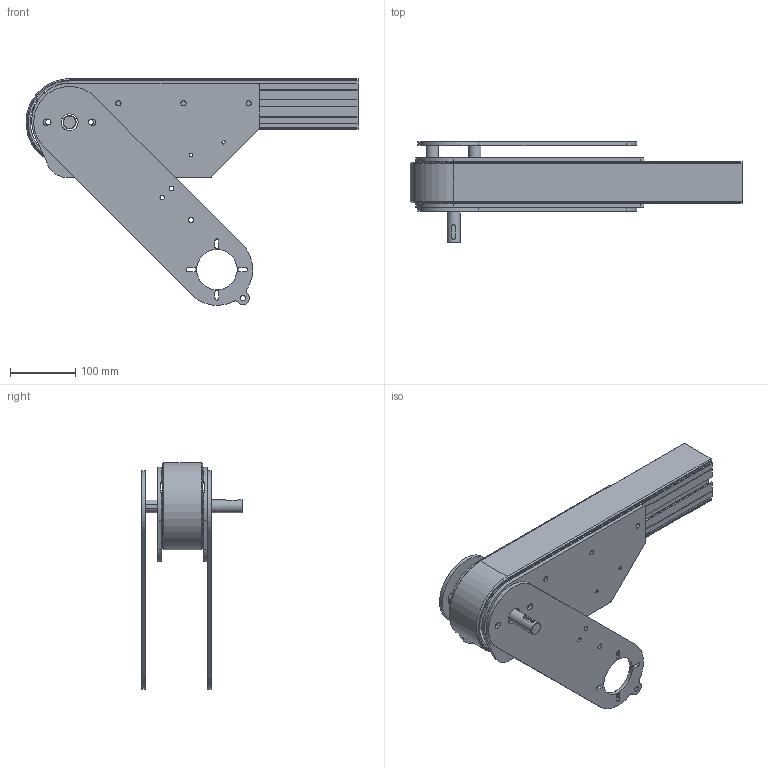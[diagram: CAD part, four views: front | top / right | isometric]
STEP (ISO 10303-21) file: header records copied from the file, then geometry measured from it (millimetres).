
FILE_DESCRIPTION((''),'2;1');
FILE_NAME('C:\Vault Klient\Projekt\Koncept konstruktion\Serie 620 Drivenhet\620-325V.stp','2010-05-25T07:57:18',('Mathias'),(''),'Autodesk Inventor 2010','Autodesk Inventor 2010','');
FILE_SCHEMA(('CONFIG_CONTROL_DESIGN'));
Length unit declared in the file: millimetre
Products named in the file (5): 620-325V; Serie 620 Drivände; 900-3120; 13271; 300-4010
Assembly tree (6 placements, depth 2):
  620-325V
    Serie 620 Drivände
    900-3120  x2
    13271
    300-4010  x2
Bounding box: 509.95 x 155 x 348.27 mm (x, y, z)
Volume: 3088728 mm3; surface area: 559389.9 mm2
Topology: 6 solids, 6 shells, 239 faces, 693 edges, 452 vertices
Faces by surface type: plane 133, cylinder 100, cone 6
Full cylindrical faces by diameter (mm): 5 x4, 6.912 x4, 8 x16, 20 x2, 26 x4, 62 x2
Entity records: 6808 total; most frequent: CARTESIAN_POINT 1201, DIRECTION 1094, ORIENTED_EDGE 1084, EDGE_CURVE 542, VECTOR 376, LINE 376, VERTEX_POINT 370, AXIS2_PLACEMENT_3D 359
